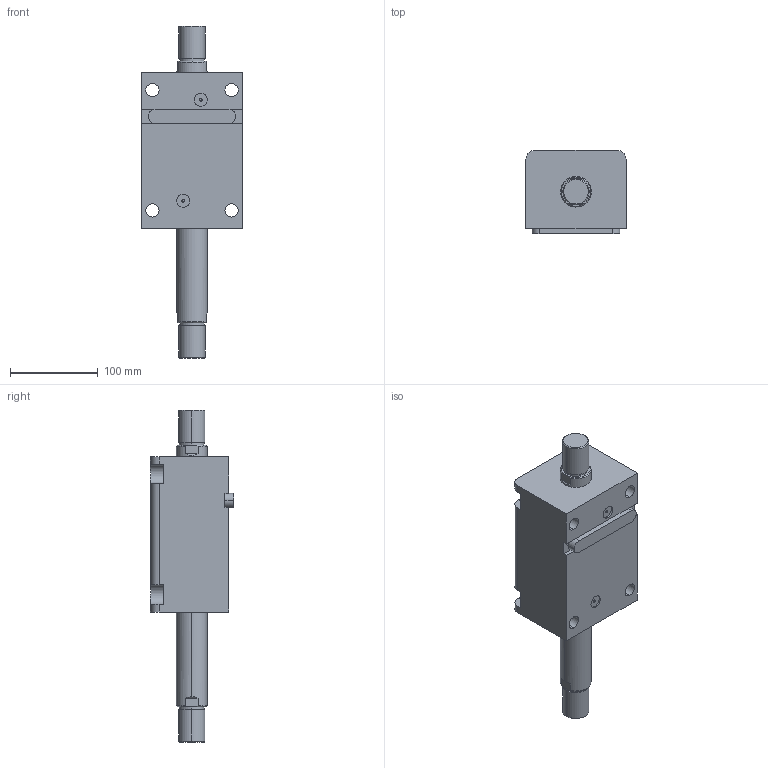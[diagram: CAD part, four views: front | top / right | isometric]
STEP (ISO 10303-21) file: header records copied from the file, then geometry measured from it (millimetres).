
FILE_DESCRIPTION (( 'STEP AP203' ), '1' );
FILE_NAME ('HTB-LWM63-95W.STEP', '2020-12-25T03:56:30', ( '微软用户' ), ( '微软中国' ), 'SwSTEP 2.0', 'SolidWorks 2012', '' );
FILE_SCHEMA (( 'CONFIG_CONTROL_DESIGN' ));
Length unit declared in the file: millimetre
Products named in the file (4): HTB-LWM63-95掛极; HTB-LWM63-95W活塞杆; HTB-LWM63-瑩; HTB-LWM63-95W
Assembly tree (3 placements, depth 2):
  HTB-LWM63-95W
    HTB-LWM63-95掛极
    HTB-LWM63-95W活塞杆
    HTB-LWM63-瑩
Bounding box: 114 x 94.5 x 378 mm (x, y, z)
Volume: 1683839.3 mm3; surface area: 192056.6 mm2
Topology: 3 solids, 3 shells, 113 faces, 273 edges, 178 vertices
Faces by surface type: cylinder 49, plane 48, torus 8, cone 8
Entity records: 3783 total; most frequent: CARTESIAN_POINT 626, DIRECTION 617, ORIENTED_EDGE 546, EDGE_CURVE 273, AXIS2_PLACEMENT_3D 241, VERTEX_POINT 178, EDGE_LOOP 135, LINE 135
